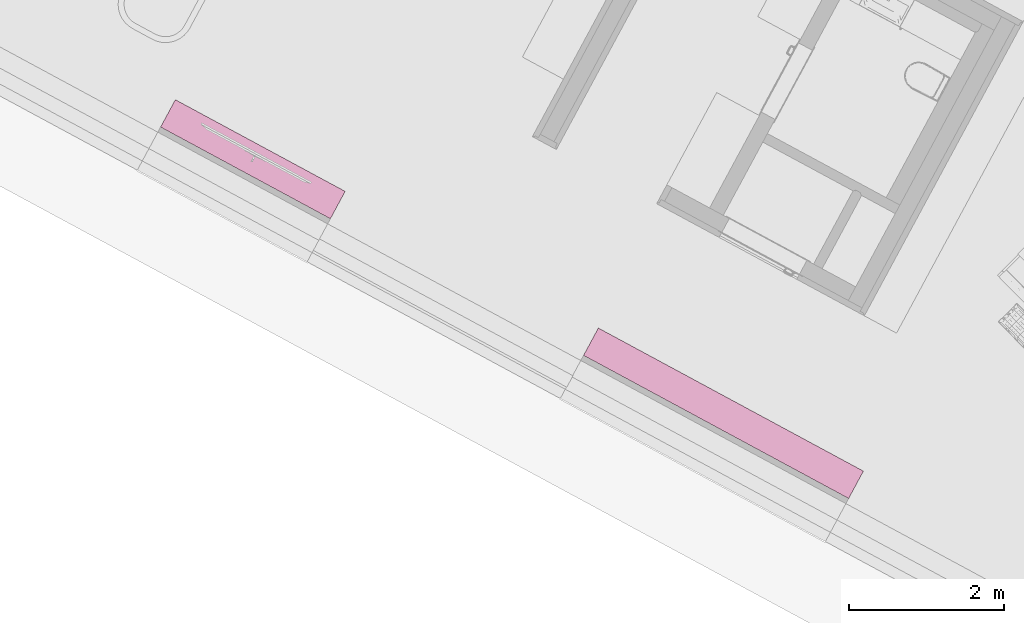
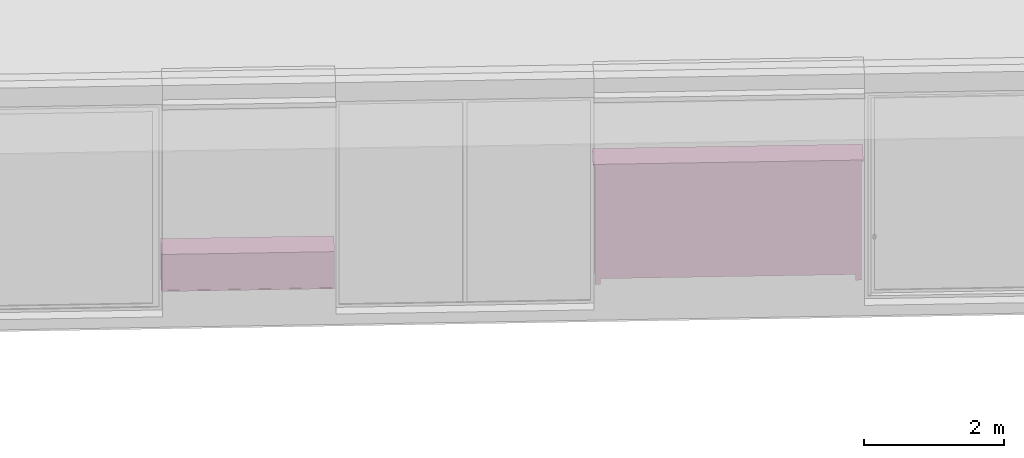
# One storey, part 34 of 52: 2 furnishings.
"""IFC2X3 building model written with IfcOpenShell, lengths in metres."""

from ifc_helpers import new_model, entity, si_unit, converted_unit, derived_unit, money_unit, direction, frame, origin_with_axes, place, context, subcontext, project, spatial, faceted_brep, type_object, element, save


model = new_model("IFC2X3")

# Units and contexts
model_context = context("Model", 3, precision=1e-05, world=origin_with_axes(), true_north=direction((0.0, 1.0)))
body_context = subcontext(model_context, "Body", "Model", "MODEL_VIEW")
ifc_project = project(units=[si_unit("LENGTHUNIT", "METRE"), si_unit("AREAUNIT", "SQUARE_METRE"), si_unit("VOLUMEUNIT", "CUBIC_METRE"), converted_unit("PLANEANGLEUNIT", "DEGREE", entity("IfcPlaneAngleMeasure", 0.0174532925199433), si_unit("PLANEANGLEUNIT", "RADIAN"), dimensions=[0, 0, 0, 0, 0, 0, 0]), money_unit("EUR"), converted_unit("TIMEUNIT", "Year", entity("IfcTimeMeasure", 31556926.0), si_unit("TIMEUNIT", "SECOND"), dimensions=[0, 0, 1, 0, 0, 0, 0]), si_unit("MASSUNIT", "GRAM", prefix="KILO"), si_unit("THERMODYNAMICTEMPERATUREUNIT", "DEGREE_CELSIUS"), si_unit("LUMINOUSINTENSITYUNIT", "LUMEN"), si_unit("ENERGYUNIT", "JOULE", prefix="MEGA"), derived_unit("THERMALCONDUCTANCEUNIT", [(si_unit("POWERUNIT", "WATT"), 1), (si_unit("LENGTHUNIT", "METRE"), -1), (si_unit("THERMODYNAMICTEMPERATUREUNIT", "KELVIN"), -1)]), derived_unit("SPECIFICHEATCAPACITYUNIT", [(si_unit("ENERGYUNIT", "JOULE"), 1), (si_unit("MASSUNIT", "GRAM", prefix="KILO"), -1), (si_unit("THERMODYNAMICTEMPERATUREUNIT", "KELVIN"), -1)]), derived_unit("MASSDENSITYUNIT", [(si_unit("MASSUNIT", "GRAM", prefix="KILO"), 1), (si_unit("VOLUMEUNIT", "CUBIC_METRE"), -1)])], contexts=[model_context])

# Site, building, storey
site_placement = place(None, frame((-3.949935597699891, 1.740105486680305, 0.0), z_axis=(0.0, 0.0, 1.0), x_axis=(0.8799804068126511, -0.475009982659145, 0.0)))
site = spatial("IfcSite", under=ifc_project, at=site_placement, Name="Gelände", CompositionType="ELEMENT")
building_placement = place(site_placement, origin_with_axes())
building = spatial("IfcBuilding", under=site, at=building_placement, Name="Gebäude", CompositionType="ELEMENT")
storey_placement = place(building_placement, origin_with_axes())
storey = spatial("IfcBuildingStorey", under=building, at=storey_placement, Name="Erdgeschoss", CompositionType="ELEMENT", Elevation=0.0)

# Furnishings
furnishing_element_type_1 = type_object("IfcFurnishingElementType", Name="Sideboard wandhängend 26")
furnishing_1_placement = place(storey_placement, frame((9.07748140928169, 0.939992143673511, 0.0), z_axis=(0.0, 0.0, 1.0), x_axis=(-1.0, 0.0, 0.0)))
element("IfcFurnishingElement", 1, at=furnishing_1_placement, inside=storey, type_object=furnishing_element_type_1, Name="Objekt-0099", context=body_context, shape_type="Brep", body=[
    faceted_brep([(-2.482507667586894, 0.02, 0.0), (-2.482507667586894, 0.4000006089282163, 0.0), (0.0, 0.4000006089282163, 0.0), (0.0, 0.02, 0.0), (-2.482507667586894, 0.02, 0.02), (-2.482507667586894, 0.4000006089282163, 0.02), (0.0, 0.4000006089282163, 0.02), (0.0, 0.02, 0.02)], [[[0, 1, 2, 3]], [[0, 4, 5, 1]], [[1, 5, 6, 2]], [[2, 6, 7, 3]], [[3, 7, 4, 0]], [[7, 6, 5, 4]]]),
    faceted_brep([(-2.482507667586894, 0.02, 0.63), (-2.482507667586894, 0.4000006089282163, 0.63), (0.0, 0.4000006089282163, 0.63), (0.0, 0.02, 0.63), (-2.482507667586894, 0.02, 0.65), (-2.482507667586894, 0.4000006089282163, 0.65), (0.0, 0.4000006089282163, 0.65), (0.0, 0.02, 0.65)], [[[0, 1, 2, 3]], [[0, 4, 5, 1]], [[1, 5, 6, 2]], [[2, 6, 7, 3]], [[3, 7, 4, 0]], [[7, 6, 5, 4]]]),
    faceted_brep([(-2.462507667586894, 0.3900006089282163, 0.02), (-2.462507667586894, 0.3950006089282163, 0.02), (-0.02, 0.3950006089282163, 0.02), (-0.02, 0.3900006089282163, 0.02), (-2.462507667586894, 0.3900006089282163, 0.63), (-2.462507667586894, 0.3950006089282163, 0.63), (-0.02, 0.3950006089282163, 0.63), (-0.02, 0.3900006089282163, 0.63)], [[[0, 1, 2, 3]], [[0, 4, 5, 1]], [[1, 5, 6, 2]], [[2, 6, 7, 3]], [[3, 7, 4, 0]], [[7, 6, 5, 4]]]),
    faceted_brep([(-0.02, 0.02, 0.02), (-0.02, 0.4000006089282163, 0.02), (0.0, 0.4000006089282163, 0.02), (0.0, 0.02, 0.02), (-0.02, 0.02, 0.63), (-0.02, 0.4000006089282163, 0.63), (0.0, 0.4000006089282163, 0.63), (0.0, 0.02, 0.63)], [[[0, 1, 2, 3]], [[0, 4, 5, 1]], [[1, 5, 6, 2]], [[2, 6, 7, 3]], [[3, 7, 4, 0]], [[7, 6, 5, 4]]]),
    faceted_brep([(-2.482507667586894, 0.02, 0.02), (-2.482507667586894, 0.4000006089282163, 0.02), (-2.462507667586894, 0.4000006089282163, 0.02), (-2.462507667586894, 0.02, 0.02), (-2.482507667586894, 0.02, 0.63), (-2.482507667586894, 0.4000006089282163, 0.63), (-2.462507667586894, 0.4000006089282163, 0.63), (-2.462507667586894, 0.02, 0.63)], [[[0, 1, 2, 3]], [[0, 4, 5, 1]], [[1, 5, 6, 2]], [[2, 6, 7, 3]], [[3, 7, 4, 0]], [[7, 6, 5, 4]]]),
    faceted_brep([(-2.481007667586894, 0.02, 0.0015), (-0.001500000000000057, 0.02, 0.0015), (-0.001500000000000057, 0.0, 0.001500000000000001), (-2.481007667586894, 0.0, 0.001500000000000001), (-2.481007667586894, 0.02000000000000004, 0.6485), (-0.001500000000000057, 0.02000000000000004, 0.6485), (-0.001500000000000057, 0.0, 0.6485), (-2.481007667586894, 0.0, 0.6485)], [[[0, 1, 2, 3]], [[0, 4, 5, 1]], [[1, 5, 6, 2]], [[3, 2, 6, 7]], [[4, 0, 3, 7]], [[5, 4, 7, 6]]]),
    faceted_brep([(-2.462507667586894, 0.02, 0.315), (-2.462507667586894, 0.3900006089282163, 0.315), (-0.02, 0.3900006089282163, 0.315), (-0.02, 0.02, 0.315), (-2.462507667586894, 0.02, 0.335), (-2.462507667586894, 0.3900006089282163, 0.335), (-0.02, 0.3900006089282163, 0.335), (-0.02, 0.02, 0.335)], [[[0, 1, 2, 3]], [[0, 4, 5, 1]], [[1, 5, 6, 2]], [[2, 6, 7, 3]], [[3, 7, 4, 0]], [[7, 6, 5, 4]]]),
])
furnishing_element_type_2 = type_object("IfcFurnishingElementType", Name="Kleiderschrank 22")
furnishing_2_placement = place(storey_placement, frame((19.13486092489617, 0.9399891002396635, 0.0), z_axis=(0.0, 0.0, 1.0), x_axis=(-1.0, 0.0, 0.0)))
element("IfcFurnishingElement", 2, at=furnishing_2_placement, inside=storey, type_object=furnishing_element_type_2, Name="Objekt-0067", context=body_context, shape_type="Brep", body=[
    faceted_brep([(0.05000000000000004, 0.3999990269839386, 0.12), (0.05000000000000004, 0.3799990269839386, 0.12), (0.05000000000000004, 0.3799990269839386, 2.05), (0.05000000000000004, 0.3999990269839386, 2.05), (3.824872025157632, 0.3999990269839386, 0.12), (3.824872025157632, 0.3799990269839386, 0.12), (3.824872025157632, 0.3799990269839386, 2.05), (3.824872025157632, 0.3999990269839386, 2.05)], [[[0, 1, 2, 3]], [[0, 4, 5, 1]], [[1, 5, 6, 2]], [[3, 2, 6, 7]], [[4, 0, 3, 7]], [[5, 4, 7, 6]]]),
    faceted_brep([(3.844872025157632, 0.04999999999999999, 0.1), (3.824872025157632, 0.04999999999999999, 0.1), (3.824872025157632, 0.3999990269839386, 0.1), (3.844872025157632, 0.3999990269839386, 0.1), (3.844872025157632, 0.04999999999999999, 2.07), (3.824872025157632, 0.04999999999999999, 2.07), (3.824872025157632, 0.3999990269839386, 2.07), (3.844872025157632, 0.3999990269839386, 2.07)], [[[0, 1, 2, 3]], [[1, 0, 4, 5]], [[2, 1, 5, 6]], [[3, 2, 6, 7]], [[0, 3, 7, 4]], [[5, 4, 7, 6]]]),
    faceted_brep([(0.05000000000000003, 0.04999999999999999, 0.1), (0.03000000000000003, 0.04999999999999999, 0.1), (0.03000000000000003, 0.3999990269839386, 0.1), (0.05000000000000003, 0.3999990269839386, 0.1), (0.05000000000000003, 0.04999999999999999, 2.07), (0.03000000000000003, 0.04999999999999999, 2.07), (0.03000000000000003, 0.3999990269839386, 2.07), (0.05000000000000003, 0.3999990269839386, 2.07)], [[[0, 1, 2, 3]], [[1, 0, 4, 5]], [[2, 1, 5, 6]], [[3, 2, 6, 7]], [[0, 3, 7, 4]], [[5, 4, 7, 6]]]),
    faceted_brep([(3.824872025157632, 0.04999999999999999, 0.1), (0.05000000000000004, 0.04999999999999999, 0.1), (0.05000000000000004, 0.3999990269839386, 0.1), (3.824872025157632, 0.3999990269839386, 0.1), (3.824872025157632, 0.04999999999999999, 0.12), (0.05000000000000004, 0.04999999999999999, 0.12), (0.05000000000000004, 0.3999990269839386, 0.12), (3.824872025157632, 0.3999990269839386, 0.12)], [[[0, 1, 2, 3]], [[1, 0, 4, 5]], [[2, 1, 5, 6]], [[3, 2, 6, 7]], [[0, 3, 7, 4]], [[5, 4, 7, 6]]]),
    faceted_brep([(3.824872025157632, 0.04999999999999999, 2.05), (0.05000000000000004, 0.04999999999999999, 2.05), (0.05000000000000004, 0.3999990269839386, 2.05), (3.824872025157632, 0.3999990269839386, 2.05), (3.824872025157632, 0.04999999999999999, 2.07), (0.05000000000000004, 0.04999999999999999, 2.07), (0.05000000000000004, 0.3999990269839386, 2.07), (3.824872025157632, 0.3999990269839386, 2.07)], [[[0, 1, 2, 3]], [[1, 0, 4, 5]], [[2, 1, 5, 6]], [[3, 2, 6, 7]], [[0, 3, 7, 4]], [[5, 4, 7, 6]]]),
    faceted_brep([(3.874872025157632, 0.3999990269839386, 2.07), (3.874872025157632, 0.3999990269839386, 2.1), (3.874872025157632, 0.0, 2.1), (3.874872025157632, 0.0, 2.07), (0.0, 0.3999990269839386, 2.07), (0.0, 0.3999990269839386, 2.1), (0.0, 0.0, 2.1), (0.0, 0.0, 2.07)], [[[0, 1, 2, 3]], [[4, 5, 1, 0]], [[1, 5, 6, 2]], [[3, 2, 6, 7]], [[0, 3, 7, 4]], [[7, 6, 5, 4]]]),
    faceted_brep([(0.1100000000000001, 0.3199990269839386, 0.0), (0.1100000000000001, 0.3999990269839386, 0.0), (0.1100000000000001, 0.3999990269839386, 0.1), (0.1100000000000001, 0.3199990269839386, 0.1), (0.03000000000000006, 0.3199990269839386, 0.0), (0.03000000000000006, 0.3999990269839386, 0.0), (0.03000000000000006, 0.3999990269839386, 0.1), (0.03000000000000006, 0.3199990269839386, 0.1)], [[[0, 1, 2, 3]], [[0, 4, 5, 1]], [[1, 5, 6, 2]], [[3, 2, 6, 7]], [[4, 0, 3, 7]], [[5, 4, 7, 6]]]),
    faceted_brep([(3.844872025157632, 0.3199990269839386, 0.0), (3.844872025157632, 0.3999990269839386, 0.0), (3.844872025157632, 0.3999990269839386, 0.1), (3.844872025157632, 0.3199990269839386, 0.1), (3.764872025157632, 0.3199990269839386, 0.0), (3.764872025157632, 0.3999990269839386, 0.0), (3.764872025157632, 0.3999990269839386, 0.1), (3.764872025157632, 0.3199990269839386, 0.1)], [[[0, 1, 2, 3]], [[0, 4, 5, 1]], [[1, 5, 6, 2]], [[3, 2, 6, 7]], [[4, 0, 3, 7]], [[5, 4, 7, 6]]]),
    faceted_brep([(0.1100000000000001, 0.05000000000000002, 0.0), (0.1100000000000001, 0.13, 0.0), (0.1100000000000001, 0.13, 0.1), (0.1100000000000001, 0.05000000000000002, 0.1), (0.03000000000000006, 0.05000000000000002, 0.0), (0.03000000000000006, 0.13, 0.0), (0.03000000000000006, 0.13, 0.1), (0.03000000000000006, 0.05000000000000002, 0.1)], [[[0, 1, 2, 3]], [[0, 4, 5, 1]], [[1, 5, 6, 2]], [[3, 2, 6, 7]], [[4, 0, 3, 7]], [[5, 4, 7, 6]]]),
    faceted_brep([(3.844872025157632, 0.05000000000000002, 0.0), (3.844872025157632, 0.13, 0.0), (3.844872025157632, 0.13, 0.1), (3.844872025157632, 0.05000000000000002, 0.1), (3.764872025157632, 0.05000000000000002, 0.0), (3.764872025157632, 0.13, 0.0), (3.764872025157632, 0.13, 0.1), (3.764872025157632, 0.05000000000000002, 0.1)], [[[0, 1, 2, 3]], [[0, 4, 5, 1]], [[1, 5, 6, 2]], [[3, 2, 6, 7]], [[4, 0, 3, 7]], [[5, 4, 7, 6]]]),
    faceted_brep([(0.04049999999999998, 0.05, 0.1104999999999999), (1.936936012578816, 0.05, 0.1104999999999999), (1.936936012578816, 0.03, 0.1104999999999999), (0.04049999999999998, 0.03, 0.1104999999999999), (0.04049999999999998, 0.05000000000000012, 2.0595), (1.936936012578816, 0.05000000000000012, 2.0595), (1.936936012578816, 0.03000000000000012, 2.0595), (0.04049999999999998, 0.03000000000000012, 2.0595)], [[[0, 1, 2, 3]], [[0, 4, 5, 1]], [[1, 5, 6, 2]], [[3, 2, 6, 7]], [[4, 0, 3, 7]], [[5, 4, 7, 6]]]),
    faceted_brep([(1.874362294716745, 0.03, 0.955), (1.874362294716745, 0.03, 0.965), (1.88643446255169, 0.03, 0.965), (1.88643446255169, 0.03, 0.955), (1.863261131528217, 0.01914952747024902, 0.965), (1.863261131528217, 0.01914952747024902, 0.955), (1.809610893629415, 0.01914952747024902, 0.965), (1.798509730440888, 0.03, 0.965), (1.786437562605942, 0.03, 0.965), (1.801407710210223, 0.01692943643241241, 0.965), (1.818401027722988, 0.008772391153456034, 0.965), (1.836436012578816, 0.006000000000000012, 0.965), (1.854470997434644, 0.008772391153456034, 0.965), (1.87146431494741, 0.01692943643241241, 0.965), (1.85032386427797, 0.01232720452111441, 0.965), (1.836436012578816, 0.009999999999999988, 0.965), (1.822548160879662, 0.01232720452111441, 0.965), (1.87146431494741, 0.01692943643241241, 0.955), (1.854470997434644, 0.008772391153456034, 0.955), (1.836436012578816, 0.006000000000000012, 0.955), (1.818401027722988, 0.008772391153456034, 0.955), (1.801407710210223, 0.01692943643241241, 0.955), (1.786437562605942, 0.03, 0.955), (1.798509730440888, 0.03, 0.955), (1.809610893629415, 0.01914952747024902, 0.955), (1.822548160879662, 0.01232720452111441, 0.955), (1.836436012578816, 0.009999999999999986, 0.955), (1.85032386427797, 0.01232720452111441, 0.955)], [[[0, 1, 2, 3]], [[4, 1, 0, 5]], [[6, 7, 8, 9, 10, 11, 12, 13, 2, 1, 4, 14, 15, 16]], [[13, 17, 3, 2]], [[5, 0, 3, 17, 18, 19, 20, 21, 22, 23, 24, 25, 26, 27]], [[14, 4, 5, 27]], [[7, 6, 24, 23]], [[7, 23, 22, 8]], [[8, 22, 21, 9]], [[9, 21, 20, 10]], [[10, 20, 19, 11]], [[11, 19, 18, 12]], [[12, 18, 17, 13]], [[15, 14, 27, 26]], [[16, 15, 26, 25]], [[6, 16, 25, 24]]]),
    faceted_brep([(1.938936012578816, 0.05, 0.1104999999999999), (3.835372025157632, 0.05, 0.1104999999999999), (3.835372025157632, 0.03, 0.1104999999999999), (1.938936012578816, 0.03, 0.1104999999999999), (1.938936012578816, 0.05000000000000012, 2.0595), (3.835372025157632, 0.05000000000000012, 2.0595), (3.835372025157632, 0.03000000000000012, 2.0595), (1.938936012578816, 0.03000000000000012, 2.0595)], [[[0, 1, 2, 3]], [[0, 4, 5, 1]], [[1, 5, 6, 2]], [[3, 2, 6, 7]], [[4, 0, 3, 7]], [[5, 4, 7, 6]]]),
    faceted_brep([(2.076362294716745, 0.03, 0.955), (2.076362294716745, 0.03, 0.965), (2.08843446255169, 0.03, 0.965), (2.08843446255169, 0.03, 0.955), (2.065261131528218, 0.01914952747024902, 0.965), (2.065261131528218, 0.01914952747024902, 0.955), (2.011610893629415, 0.01914952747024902, 0.965), (2.000509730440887, 0.03, 0.965), (1.988437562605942, 0.03, 0.965), (2.003407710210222, 0.01692943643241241, 0.965), (2.020401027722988, 0.008772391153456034, 0.965), (2.038436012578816, 0.006000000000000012, 0.965), (2.056470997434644, 0.008772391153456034, 0.965), (2.073464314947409, 0.01692943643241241, 0.965), (2.05232386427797, 0.01232720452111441, 0.965), (2.038436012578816, 0.009999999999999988, 0.965), (2.024548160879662, 0.01232720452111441, 0.965), (2.073464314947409, 0.01692943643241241, 0.955), (2.056470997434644, 0.008772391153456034, 0.955), (2.038436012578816, 0.006000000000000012, 0.955), (2.020401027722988, 0.008772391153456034, 0.955), (2.003407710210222, 0.01692943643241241, 0.955), (1.988437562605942, 0.03, 0.955), (2.000509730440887, 0.03, 0.955), (2.011610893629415, 0.01914952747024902, 0.955), (2.024548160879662, 0.01232720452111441, 0.955), (2.038436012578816, 0.009999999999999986, 0.955), (2.05232386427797, 0.01232720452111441, 0.955)], [[[0, 1, 2, 3]], [[4, 1, 0, 5]], [[6, 7, 8, 9, 10, 11, 12, 13, 2, 1, 4, 14, 15, 16]], [[17, 3, 2, 13]], [[5, 0, 3, 17, 18, 19, 20, 21, 22, 23, 24, 25, 26, 27]], [[14, 4, 5, 27]], [[7, 6, 24, 23]], [[7, 23, 22, 8]], [[22, 21, 9, 8]], [[21, 20, 10, 9]], [[20, 19, 11, 10]], [[19, 18, 12, 11]], [[18, 17, 13, 12]], [[15, 14, 27, 26]], [[16, 15, 26, 25]], [[6, 16, 25, 24]]]),
])

save(model, "model.ifc")
